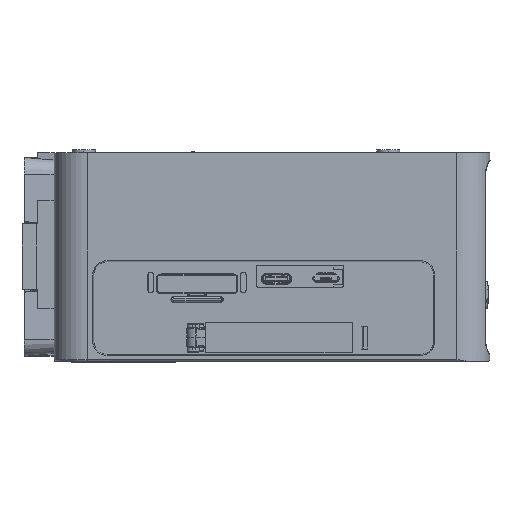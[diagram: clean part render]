
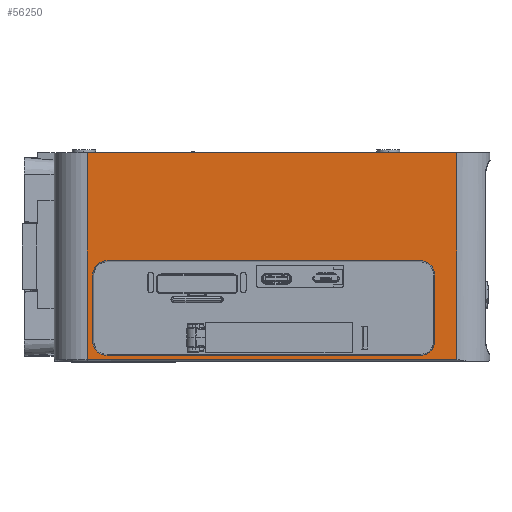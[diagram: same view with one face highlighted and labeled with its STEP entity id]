
A CAD part, left-side view. The second image highlights one B-rep face of the part: STEP entity #56250.
In plain terms, the highlighted planar face has unit normal (-1, 0, 0).
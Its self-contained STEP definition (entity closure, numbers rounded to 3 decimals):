
#115 = ORIENTED_EDGE ( 'NONE', *, *, #93836, .F. ) ;
#2707 = CIRCLE ( 'NONE', #78425, 4.314 ) ;
#4012 = VERTEX_POINT ( 'NONE', #70277 ) ;
#6535 = LINE ( 'NONE', #13723, #94651 ) ;
#7404 = ORIENTED_EDGE ( 'NONE', *, *, #71336, .F. ) ;
#7726 = VECTOR ( 'NONE', #93252, 1000. ) ;
#8045 = LINE ( 'NONE', #92423, #69237 ) ;
#8389 = FACE_BOUND ( 'NONE', #59647, .T. ) ;
#10105 = EDGE_CURVE ( 'NONE', #83756, #34954, #77523, .T. ) ;
#10473 = LINE ( 'NONE', #94854, #19245 ) ;
#12419 = CARTESIAN_POINT ( 'NONE',  ( 2.732, -124.714, -37.8 ) ) ;
#12607 = ORIENTED_EDGE ( 'NONE', *, *, #10105, .F. ) ;
#12763 = CARTESIAN_POINT ( 'NONE',  ( 2.732, -21.386, -37.8 ) ) ;
#13723 = CARTESIAN_POINT ( 'NONE',  ( 2.732, -131.4, -0.8 ) ) ;
#14649 = ORIENTED_EDGE ( 'NONE', *, *, #40489, .F. ) ;
#16034 = DIRECTION ( 'NONE',  ( -1., 0., 0. ) ) ;
#19245 = VECTOR ( 'NONE', #19289, 1000. ) ;
#19289 = DIRECTION ( 'NONE',  ( 0., -1., 0. ) ) ;
#20149 = LINE ( 'NONE', #43350, #77296 ) ;
#21148 = CARTESIAN_POINT ( 'NONE',  ( 2.732, -9.7, -33.486 ) ) ;
#21454 = EDGE_CURVE ( 'NONE', #106690, #37002, #47626, .T. ) ;
#22675 = DIRECTION ( 'NONE',  ( 0., 0., 1. ) ) ;
#23820 = CARTESIAN_POINT ( 'NONE',  ( 2.732, -9.7, -63.8 ) ) ;
#24513 = DIRECTION ( 'NONE',  ( -1., 0., 0. ) ) ;
#24660 = AXIS2_PLACEMENT_3D ( 'NONE', #98940, #73018, #106673 ) ;
#25048 = VERTEX_POINT ( 'NONE', #72266 ) ;
#26446 = CIRCLE ( 'NONE', #24660, 4.314 ) ;
#27813 = CARTESIAN_POINT ( 'NONE',  ( 2.732, -19.7, 81.327 ) ) ;
#28787 = VERTEX_POINT ( 'NONE', #54494 ) ;
#30347 = CARTESIAN_POINT ( 'NONE',  ( 2.732, -131.922, -63.3 ) ) ;
#30613 = EDGE_CURVE ( 'NONE', #25048, #71521, #81071, .T. ) ;
#31935 = EDGE_CURVE ( 'NONE', #37002, #88562, #26446, .T. ) ;
#32112 = DIRECTION ( 'NONE',  ( -1., 0., 0. ) ) ;
#34228 = LINE ( 'NONE', #84418, #7726 ) ;
#34279 = ORIENTED_EDGE ( 'NONE', *, *, #21454, .F. ) ;
#34954 = VERTEX_POINT ( 'NONE', #93621 ) ;
#37002 = VERTEX_POINT ( 'NONE', #44811 ) ;
#38165 = VERTEX_POINT ( 'NONE', #71450 ) ;
#38489 = AXIS2_PLACEMENT_3D ( 'NONE', #83509, #24513, #82971 ) ;
#39624 = DIRECTION ( 'NONE',  ( 0., -1., 0. ) ) ;
#40489 = EDGE_CURVE ( 'NONE', #34954, #28787, #10473, .T. ) ;
#40577 = DIRECTION ( 'NONE',  ( 0., 0., -1. ) ) ;
#43350 = CARTESIAN_POINT ( 'NONE',  ( 2.732, -131.4, 81.327 ) ) ;
#43896 = ORIENTED_EDGE ( 'NONE', *, *, #94089, .F. ) ;
#44066 = AXIS2_PLACEMENT_3D ( 'NONE', #63229, #72041, #88595 ) ;
#44102 = CARTESIAN_POINT ( 'NONE',  ( 2.732, -19.7, -63.3 ) ) ;
#44811 = CARTESIAN_POINT ( 'NONE',  ( 2.732, -25.7, -33.486 ) ) ;
#45442 = DIRECTION ( 'NONE',  ( 0., 1., 0. ) ) ;
#47417 = VECTOR ( 'NONE', #72802, 1000. ) ;
#47626 = LINE ( 'NONE', #21148, #99404 ) ;
#47940 = EDGE_CURVE ( 'NONE', #71521, #4012, #89973, .T. ) ;
#49251 = EDGE_LOOP ( 'NONE', ( #115, #67742, #78846, #87734 ) ) ;
#51250 = EDGE_CURVE ( 'NONE', #88044, #62183, #34228, .T. ) ;
#53810 = DIRECTION ( 'NONE',  ( 0., 0., -1. ) ) ;
#54494 = CARTESIAN_POINT ( 'NONE',  ( 2.732, -120.4, -62.114 ) ) ;
#56250 = ADVANCED_FACE ( 'NONE', ( #84471, #8389 ), #56944, .T. ) ;
#56944 = PLANE ( 'NONE',  #109116 ) ;
#59647 = EDGE_LOOP ( 'NONE', ( #98196, #34279, #7404, #102374, #43896, #14649, #12607, #92588 ) ) ;
#62183 = VERTEX_POINT ( 'NONE', #12419 ) ;
#63229 = CARTESIAN_POINT ( 'NONE',  ( 2.732, -25.7, -57.8 ) ) ;
#67742 = ORIENTED_EDGE ( 'NONE', *, *, #75334, .F. ) ;
#69237 = VECTOR ( 'NONE', #40577, 1000. ) ;
#70277 = CARTESIAN_POINT ( 'NONE',  ( 2.732, -19.7, -0.8 ) ) ;
#71336 = EDGE_CURVE ( 'NONE', #62183, #106690, #2707, .T. ) ;
#71450 = CARTESIAN_POINT ( 'NONE',  ( 2.732, -131.4, -0.8 ) ) ;
#71521 = VERTEX_POINT ( 'NONE', #44102 ) ;
#72041 = DIRECTION ( 'NONE',  ( -1., 0., 0. ) ) ;
#72266 = CARTESIAN_POINT ( 'NONE',  ( 2.732, -131.4, -63.3 ) ) ;
#72802 = DIRECTION ( 'NONE',  ( 0., 1., 0. ) ) ;
#73018 = DIRECTION ( 'NONE',  ( -1., 0., 0. ) ) ;
#74446 = VECTOR ( 'NONE', #22675, 1000. ) ;
#75334 = EDGE_CURVE ( 'NONE', #4012, #38165, #6535, .T. ) ;
#77296 = VECTOR ( 'NONE', #53810, 1000. ) ;
#77523 = CIRCLE ( 'NONE', #44066, 4.314 ) ;
#78425 = AXIS2_PLACEMENT_3D ( 'NONE', #92680, #16034, #83838 ) ;
#78846 = ORIENTED_EDGE ( 'NONE', *, *, #47940, .F. ) ;
#81071 = LINE ( 'NONE', #30347, #47417 ) ;
#82463 = CARTESIAN_POINT ( 'NONE',  ( 2.732, -21.386, -57.8 ) ) ;
#82971 = DIRECTION ( 'NONE',  ( 0., 0., 1. ) ) ;
#83509 = CARTESIAN_POINT ( 'NONE',  ( 2.732, -120.4, -57.8 ) ) ;
#83756 = VERTEX_POINT ( 'NONE', #82463 ) ;
#83838 = DIRECTION ( 'NONE',  ( 0., 0., 1. ) ) ;
#84321 = CIRCLE ( 'NONE', #38489, 4.314 ) ;
#84418 = CARTESIAN_POINT ( 'NONE',  ( 2.732, -124.714, -63.8 ) ) ;
#84471 = FACE_OUTER_BOUND ( 'NONE', #49251, .T. ) ;
#87734 = ORIENTED_EDGE ( 'NONE', *, *, #30613, .F. ) ;
#88044 = VERTEX_POINT ( 'NONE', #103504 ) ;
#88562 = VERTEX_POINT ( 'NONE', #12763 ) ;
#88595 = DIRECTION ( 'NONE',  ( 0., 0., 1. ) ) ;
#89973 = LINE ( 'NONE', #27813, #74446 ) ;
#92423 = CARTESIAN_POINT ( 'NONE',  ( 2.732, -21.386, -63.8 ) ) ;
#92588 = ORIENTED_EDGE ( 'NONE', *, *, #107836, .F. ) ;
#92680 = CARTESIAN_POINT ( 'NONE',  ( 2.732, -120.4, -37.8 ) ) ;
#93252 = DIRECTION ( 'NONE',  ( 0., 0., 1. ) ) ;
#93621 = CARTESIAN_POINT ( 'NONE',  ( 2.732, -25.7, -62.114 ) ) ;
#93836 = EDGE_CURVE ( 'NONE', #38165, #25048, #20149, .T. ) ;
#94089 = EDGE_CURVE ( 'NONE', #28787, #88044, #84321, .T. ) ;
#94651 = VECTOR ( 'NONE', #39624, 1000. ) ;
#94854 = CARTESIAN_POINT ( 'NONE',  ( 2.732, -9.7, -62.114 ) ) ;
#98196 = ORIENTED_EDGE ( 'NONE', *, *, #31935, .F. ) ;
#98940 = CARTESIAN_POINT ( 'NONE',  ( 2.732, -25.7, -37.8 ) ) ;
#99404 = VECTOR ( 'NONE', #45442, 1000. ) ;
#101202 = CARTESIAN_POINT ( 'NONE',  ( 2.732, -120.4, -33.486 ) ) ;
#102374 = ORIENTED_EDGE ( 'NONE', *, *, #51250, .F. ) ;
#103504 = CARTESIAN_POINT ( 'NONE',  ( 2.732, -124.714, -57.8 ) ) ;
#106673 = DIRECTION ( 'NONE',  ( 0., 0., 1. ) ) ;
#106690 = VERTEX_POINT ( 'NONE', #101202 ) ;
#107676 = DIRECTION ( 'NONE',  ( 0., 0., 1. ) ) ;
#107836 = EDGE_CURVE ( 'NONE', #88562, #83756, #8045, .T. ) ;
#109116 = AXIS2_PLACEMENT_3D ( 'NONE', #23820, #32112, #107676 ) ;
